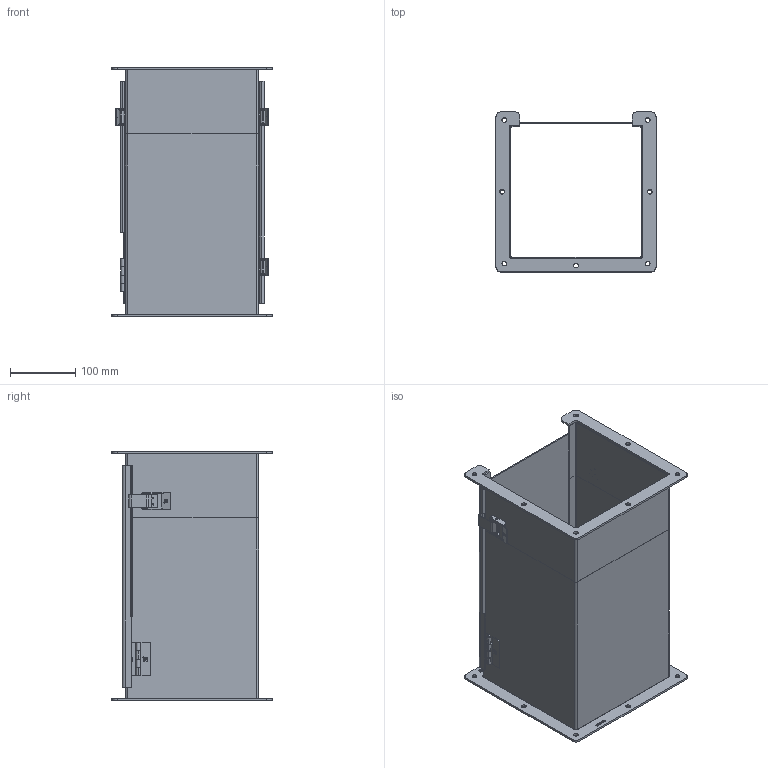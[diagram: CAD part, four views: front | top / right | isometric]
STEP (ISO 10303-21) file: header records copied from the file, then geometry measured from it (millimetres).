
FILE_DESCRIPTION (( 'STEP AP203' ), '1' );
FILE_NAME ('f88lxl.STEP', '2013-08-02T11:51:19', ( '' ), ( '' ), 'SwSTEP 2.0', 'SolidWorks 2010', '' );
FILE_SCHEMA (( 'CONFIG_CONTROL_DESIGN' ));
Products named in the file (16): 18340007; 14141001_CLOSED; f88lxl; 14137001; 89081719_CLOSED; 89081729_CLOSED; 18125001; 18340008; 14136001; 14138001; 89047821; 89081724_CLOSED; 89047820; 14102015_CLOSE; 89047819_89047041; 18201009
Assembly tree (20 placements, depth 5):
  f88lxl
    14141001_CLOSED  x3
      14138001
      14137001
    89081729_CLOSED
      18125001
      18340008
      14136001
      89081719_CLOSED
        18201009
        14102015_CLOSE
          89047820
          89047819_89047041
          89047821
    89081724_CLOSED
      18125001
      18340007
      14136001  x2
Bounding box: 244.45 x 244.45 x 381.13 mm (x, y, z)
Volume: 689650.1 mm3; surface area: 737084.3 mm2
Topology: 17 solids, 17 shells, 1256 faces, 3262 edges, 2087 vertices
Faces by surface type: plane 594, bspline 335, cylinder 273, torus 36, cone 18
Entity records: 35029 total; most frequent: CARTESIAN_POINT 18081, ORIENTED_EDGE 3390, DIRECTION 2615, EDGE_CURVE 1695, VERTEX_POINT 1079, LINE 1037, VECTOR 1037, AXIS2_PLACEMENT_3D 789
